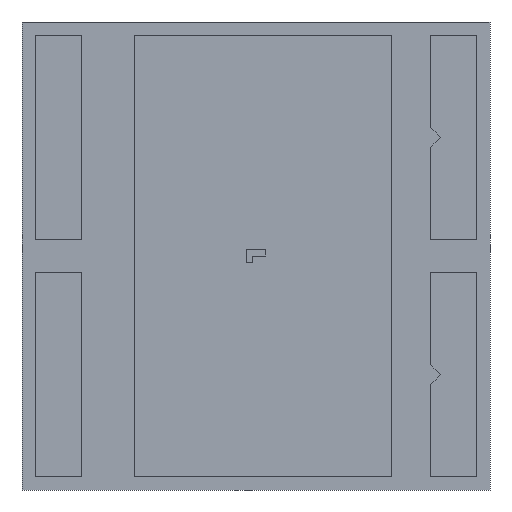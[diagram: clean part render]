
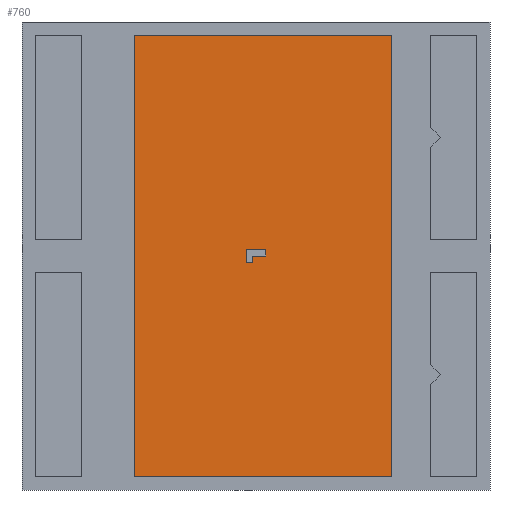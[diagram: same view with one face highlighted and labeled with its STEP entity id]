
A CAD part, front view. The second image highlights one B-rep face of the part: STEP entity #760.
In plain terms, the highlighted planar face has unit normal (0, -1, 0).
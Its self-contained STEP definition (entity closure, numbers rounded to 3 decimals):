
#16 = CARTESIAN_POINT ( 'NONE',  ( 0.15, -0.065, 0. ) ) ;
#35 = CARTESIAN_POINT ( 'NONE',  ( -1.85, -0.065, -3.35 ) ) ;
#43 = VERTEX_POINT ( 'NONE', #1249 ) ;
#54 = CARTESIAN_POINT ( 'NONE',  ( 2.05, -0.065, 3.35 ) ) ;
#82 = VECTOR ( 'NONE', #1742, 1000. ) ;
#152 = VECTOR ( 'NONE', #869, 1000. ) ;
#161 = DIRECTION ( 'NONE',  ( 1., 0., 0. ) ) ;
#174 = FACE_OUTER_BOUND ( 'NONE', #328, .T. ) ;
#176 = CARTESIAN_POINT ( 'NONE',  ( -1.85, -0.065, 3.35 ) ) ;
#207 = EDGE_CURVE ( 'NONE', #750, #672, #1328, .T. ) ;
#237 = DIRECTION ( 'NONE',  ( 0., 0., 1. ) ) ;
#266 = EDGE_CURVE ( 'NONE', #674, #1468, #1146, .T. ) ;
#280 = CARTESIAN_POINT ( 'NONE',  ( -0.15, -0.065, 0.1 ) ) ;
#328 = EDGE_LOOP ( 'NONE', ( #583, #646, #1625, #948 ) ) ;
#334 = VERTEX_POINT ( 'NONE', #624 ) ;
#346 = ORIENTED_EDGE ( 'NONE', *, *, #207, .F. ) ;
#428 = LINE ( 'NONE', #982, #1458 ) ;
#474 = LINE ( 'NONE', #572, #82 ) ;
#521 = EDGE_CURVE ( 'NONE', #672, #43, #1895, .T. ) ;
#555 = EDGE_CURVE ( 'NONE', #1377, #750, #1374, .T. ) ;
#570 = EDGE_CURVE ( 'NONE', #1468, #334, #1071, .T. ) ;
#572 = CARTESIAN_POINT ( 'NONE',  ( -0.05, -0.065, 0. ) ) ;
#578 = VECTOR ( 'NONE', #865, 1000. ) ;
#583 = ORIENTED_EDGE ( 'NONE', *, *, #1569, .T. ) ;
#593 = CARTESIAN_POINT ( 'NONE',  ( 0.15, -0.065, 0.1 ) ) ;
#624 = CARTESIAN_POINT ( 'NONE',  ( 2.05, -0.065, -3.35 ) ) ;
#646 = ORIENTED_EDGE ( 'NONE', *, *, #266, .T. ) ;
#649 = ORIENTED_EDGE ( 'NONE', *, *, #945, .F. ) ;
#672 = VERTEX_POINT ( 'NONE', #914 ) ;
#674 = VERTEX_POINT ( 'NONE', #176 ) ;
#694 = ORIENTED_EDGE ( 'NONE', *, *, #521, .F. ) ;
#725 = LINE ( 'NONE', #1896, #1355 ) ;
#737 = CARTESIAN_POINT ( 'NONE',  ( -0.15, -0.065, 0.1 ) ) ;
#750 = VERTEX_POINT ( 'NONE', #16 ) ;
#760 = ADVANCED_FACE ( 'NONE', ( #174, #1555 ), #1060, .T. ) ;
#799 = CARTESIAN_POINT ( 'NONE',  ( 2.05, -0.065, 3.35 ) ) ;
#861 = LINE ( 'NONE', #54, #1105 ) ;
#865 = DIRECTION ( 'NONE',  ( 1., 0., 0. ) ) ;
#869 = DIRECTION ( 'NONE',  ( 0., 0., 1. ) ) ;
#885 = DIRECTION ( 'NONE',  ( 0., 0., -1. ) ) ;
#914 = CARTESIAN_POINT ( 'NONE',  ( 0.15, -0.065, 0.1 ) ) ;
#929 = DIRECTION ( 'NONE',  ( 0., 0., -1. ) ) ;
#945 = EDGE_CURVE ( 'NONE', #43, #1804, #1095, .T. ) ;
#948 = ORIENTED_EDGE ( 'NONE', *, *, #1513, .T. ) ;
#982 = CARTESIAN_POINT ( 'NONE',  ( 2.05, -0.065, 3.35 ) ) ;
#989 = VECTOR ( 'NONE', #1610, 1000. ) ;
#1016 = CARTESIAN_POINT ( 'NONE',  ( 0.15, -0.065, 0. ) ) ;
#1060 = PLANE ( 'NONE',  #1651 ) ;
#1071 = LINE ( 'NONE', #1737, #578 ) ;
#1095 = LINE ( 'NONE', #737, #1764 ) ;
#1105 = VECTOR ( 'NONE', #1731, 1000. ) ;
#1146 = LINE ( 'NONE', #1842, #1495 ) ;
#1238 = CARTESIAN_POINT ( 'NONE',  ( -0.15, -0.065, -0.1 ) ) ;
#1249 = CARTESIAN_POINT ( 'NONE',  ( -0.15, -0.065, 0.1 ) ) ;
#1328 = LINE ( 'NONE', #593, #152 ) ;
#1355 = VECTOR ( 'NONE', #161, 1000. ) ;
#1360 = CARTESIAN_POINT ( 'NONE',  ( -0.05, -0.065, -0.1 ) ) ;
#1374 = LINE ( 'NONE', #1016, #989 ) ;
#1377 = VERTEX_POINT ( 'NONE', #1683 ) ;
#1405 = VERTEX_POINT ( 'NONE', #799 ) ;
#1458 = VECTOR ( 'NONE', #237, 1000. ) ;
#1468 = VERTEX_POINT ( 'NONE', #35 ) ;
#1475 = DIRECTION ( 'NONE',  ( -1., 0., 0. ) ) ;
#1492 = ORIENTED_EDGE ( 'NONE', *, *, #1673, .F. ) ;
#1495 = VECTOR ( 'NONE', #1787, 1000. ) ;
#1505 = CARTESIAN_POINT ( 'NONE',  ( 0., -0.065, 0. ) ) ;
#1513 = EDGE_CURVE ( 'NONE', #334, #1405, #428, .T. ) ;
#1537 = VECTOR ( 'NONE', #1475, 1000. ) ;
#1555 = FACE_BOUND ( 'NONE', #1825, .T. ) ;
#1569 = EDGE_CURVE ( 'NONE', #1405, #674, #861, .T. ) ;
#1582 = ORIENTED_EDGE ( 'NONE', *, *, #1665, .F. ) ;
#1610 = DIRECTION ( 'NONE',  ( 1., 0., 0. ) ) ;
#1625 = ORIENTED_EDGE ( 'NONE', *, *, #570, .T. ) ;
#1646 = DIRECTION ( 'NONE',  ( 0., -1., 0. ) ) ;
#1651 = AXIS2_PLACEMENT_3D ( 'NONE', #1505, #1646, #929 ) ;
#1665 = EDGE_CURVE ( 'NONE', #1736, #1377, #474, .T. ) ;
#1673 = EDGE_CURVE ( 'NONE', #1804, #1736, #725, .T. ) ;
#1683 = CARTESIAN_POINT ( 'NONE',  ( -0.05, -0.065, 0. ) ) ;
#1731 = DIRECTION ( 'NONE',  ( -1., 0., 0. ) ) ;
#1734 = ORIENTED_EDGE ( 'NONE', *, *, #555, .F. ) ;
#1736 = VERTEX_POINT ( 'NONE', #1360 ) ;
#1737 = CARTESIAN_POINT ( 'NONE',  ( -1.85, -0.065, -3.35 ) ) ;
#1742 = DIRECTION ( 'NONE',  ( 0., 0., 1. ) ) ;
#1764 = VECTOR ( 'NONE', #885, 1000. ) ;
#1787 = DIRECTION ( 'NONE',  ( 0., 0., -1. ) ) ;
#1804 = VERTEX_POINT ( 'NONE', #1238 ) ;
#1825 = EDGE_LOOP ( 'NONE', ( #1492, #649, #694, #346, #1734, #1582 ) ) ;
#1842 = CARTESIAN_POINT ( 'NONE',  ( -1.85, -0.065, 3.35 ) ) ;
#1895 = LINE ( 'NONE', #280, #1537 ) ;
#1896 = CARTESIAN_POINT ( 'NONE',  ( -0.15, -0.065, -0.1 ) ) ;
